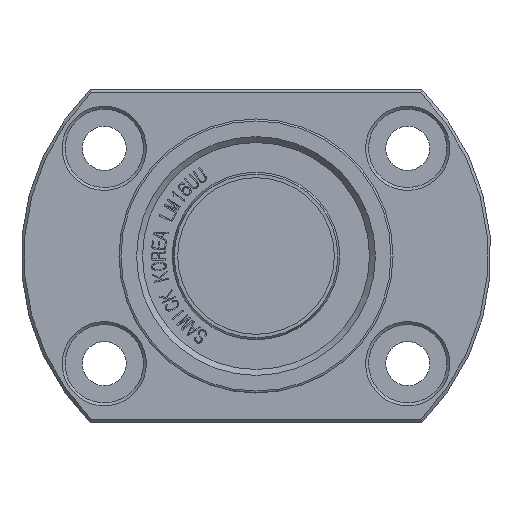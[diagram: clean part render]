
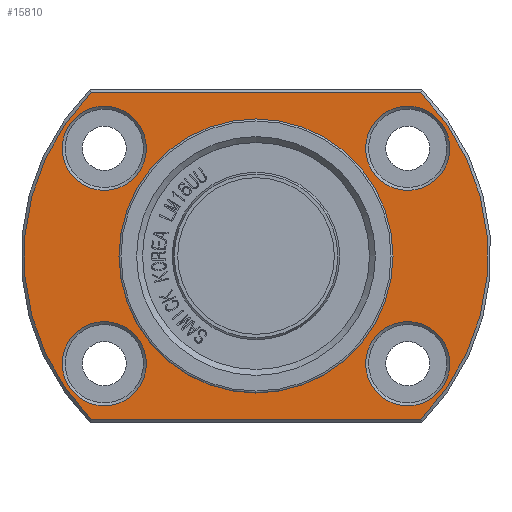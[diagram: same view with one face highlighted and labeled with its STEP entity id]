
A CAD part, front view. The second image highlights one B-rep face of the part: STEP entity #15810.
In plain terms, the highlighted planar face has unit normal (0, -1, 0).
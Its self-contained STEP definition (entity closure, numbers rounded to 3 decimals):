
#2595=FACE_BOUND('',#3747,.T.);
#2596=FACE_BOUND('',#3748,.T.);
#2597=FACE_BOUND('',#3749,.T.);
#2598=FACE_BOUND('',#3750,.T.);
#2599=FACE_BOUND('',#3751,.T.);
#2659=PLANE('',#16687);
#2892=FACE_OUTER_BOUND('',#3746,.T.);
#3746=EDGE_LOOP('',(#11006,#11007,#11008,#11009));
#3747=EDGE_LOOP('',(#11010));
#3748=EDGE_LOOP('',(#11011));
#3749=EDGE_LOOP('',(#11012,#11013));
#3750=EDGE_LOOP('',(#11014));
#3751=EDGE_LOOP('',(#11015));
#4664=LINE('',#18871,#5794);
#4665=LINE('',#18875,#5795);
#5794=VECTOR('',#17044,10.);
#5795=VECTOR('',#17047,10.);
#6923=CIRCLE('',#16684,4.3);
#6926=CIRCLE('',#16688,23.7);
#6927=CIRCLE('',#16689,23.7);
#6928=CIRCLE('',#16690,4.3);
#6929=CIRCLE('',#16691,4.3);
#6930=CIRCLE('',#16692,14.);
#6931=CIRCLE('',#16693,14.);
#6932=CIRCLE('',#16694,4.3);
#7005=VERTEX_POINT('',#18861);
#7008=VERTEX_POINT('',#18869);
#7009=VERTEX_POINT('',#18870);
#7010=VERTEX_POINT('',#18872);
#7011=VERTEX_POINT('',#18874);
#7012=VERTEX_POINT('',#18877);
#7013=VERTEX_POINT('',#18879);
#7014=VERTEX_POINT('',#18881);
#7015=VERTEX_POINT('',#18882);
#7016=VERTEX_POINT('',#18885);
#8605=EDGE_CURVE('',#7005,#7005,#6923,.T.);
#8609=EDGE_CURVE('',#7008,#7009,#4664,.T.);
#8610=EDGE_CURVE('',#7008,#7010,#6926,.T.);
#8611=EDGE_CURVE('',#7011,#7010,#4665,.T.);
#8612=EDGE_CURVE('',#7011,#7009,#6927,.T.);
#8613=EDGE_CURVE('',#7012,#7012,#6928,.T.);
#8614=EDGE_CURVE('',#7013,#7013,#6929,.T.);
#8615=EDGE_CURVE('',#7014,#7015,#6930,.T.);
#8616=EDGE_CURVE('',#7015,#7014,#6931,.T.);
#8617=EDGE_CURVE('',#7016,#7016,#6932,.T.);
#11006=ORIENTED_EDGE('',*,*,#8609,.F.);
#11007=ORIENTED_EDGE('',*,*,#8610,.T.);
#11008=ORIENTED_EDGE('',*,*,#8611,.F.);
#11009=ORIENTED_EDGE('',*,*,#8612,.T.);
#11010=ORIENTED_EDGE('',*,*,#8613,.F.);
#11011=ORIENTED_EDGE('',*,*,#8614,.F.);
#11012=ORIENTED_EDGE('',*,*,#8615,.F.);
#11013=ORIENTED_EDGE('',*,*,#8616,.F.);
#11014=ORIENTED_EDGE('',*,*,#8617,.F.);
#11015=ORIENTED_EDGE('',*,*,#8605,.F.);
#15810=ADVANCED_FACE('',(#2892,#2595,#2596,#2597,#2598,#2599),#2659,.T.);
#16684=AXIS2_PLACEMENT_3D('',#18862,#17035,#17036);
#16687=AXIS2_PLACEMENT_3D('',#18868,#17042,#17043);
#16688=AXIS2_PLACEMENT_3D('',#18873,#17045,#17046);
#16689=AXIS2_PLACEMENT_3D('',#18876,#17048,#17049);
#16690=AXIS2_PLACEMENT_3D('',#18878,#17050,#17051);
#16691=AXIS2_PLACEMENT_3D('',#18880,#17052,#17053);
#16692=AXIS2_PLACEMENT_3D('',#18883,#17054,#17055);
#16693=AXIS2_PLACEMENT_3D('',#18884,#17056,#17057);
#16694=AXIS2_PLACEMENT_3D('',#18886,#17058,#17059);
#17035=DIRECTION('center_axis',(0.,-1.,0.));
#17036=DIRECTION('ref_axis',(-1.,0.,0.));
#17042=DIRECTION('center_axis',(0.,-1.,0.));
#17043=DIRECTION('ref_axis',(0.,0.,-1.));
#17044=DIRECTION('',(-1.,0.,0.));
#17045=DIRECTION('center_axis',(0.,-1.,0.));
#17046=DIRECTION('ref_axis',(1.,0.,0.));
#17047=DIRECTION('',(1.,0.,0.));
#17048=DIRECTION('center_axis',(0.,-1.,0.));
#17049=DIRECTION('ref_axis',(1.,0.,0.));
#17050=DIRECTION('center_axis',(0.,-1.,0.));
#17051=DIRECTION('ref_axis',(-1.,0.,0.));
#17052=DIRECTION('center_axis',(0.,-1.,0.));
#17053=DIRECTION('ref_axis',(-1.,0.,0.));
#17054=DIRECTION('center_axis',(0.,-1.,0.));
#17055=DIRECTION('ref_axis',(1.,0.,0.));
#17056=DIRECTION('center_axis',(0.,-1.,0.));
#17057=DIRECTION('ref_axis',(1.,0.,0.));
#17058=DIRECTION('center_axis',(0.,-1.,0.));
#17059=DIRECTION('ref_axis',(-1.,0.,0.));
#18861=CARTESIAN_POINT('',(-11.2,-18.5,-11.));
#18862=CARTESIAN_POINT('Origin',(-15.5,-18.5,-11.));
#18868=CARTESIAN_POINT('Origin',(18.85,-18.5,0.));
#18869=CARTESIAN_POINT('',(16.817,-18.5,-16.7));
#18870=CARTESIAN_POINT('',(-16.817,-18.5,-16.7));
#18871=CARTESIAN_POINT('',(23.175,-18.5,-16.7));
#18872=CARTESIAN_POINT('',(16.817,-18.5,16.7));
#18873=CARTESIAN_POINT('Origin',(0.,-18.5,0.));
#18874=CARTESIAN_POINT('',(-16.817,-18.5,16.7));
#18875=CARTESIAN_POINT('',(-4.325,-18.5,16.7));
#18876=CARTESIAN_POINT('Origin',(0.,-18.5,0.));
#18877=CARTESIAN_POINT('',(-11.2,-18.5,11.));
#18878=CARTESIAN_POINT('Origin',(-15.5,-18.5,11.));
#18879=CARTESIAN_POINT('',(19.8,-18.5,-11.));
#18880=CARTESIAN_POINT('Origin',(15.5,-18.5,-11.));
#18881=CARTESIAN_POINT('',(14.,-18.5,0.));
#18882=CARTESIAN_POINT('',(-14.,-18.5,0.));
#18883=CARTESIAN_POINT('Origin',(0.,-18.5,0.));
#18884=CARTESIAN_POINT('Origin',(0.,-18.5,0.));
#18885=CARTESIAN_POINT('',(19.8,-18.5,11.));
#18886=CARTESIAN_POINT('Origin',(15.5,-18.5,11.));
